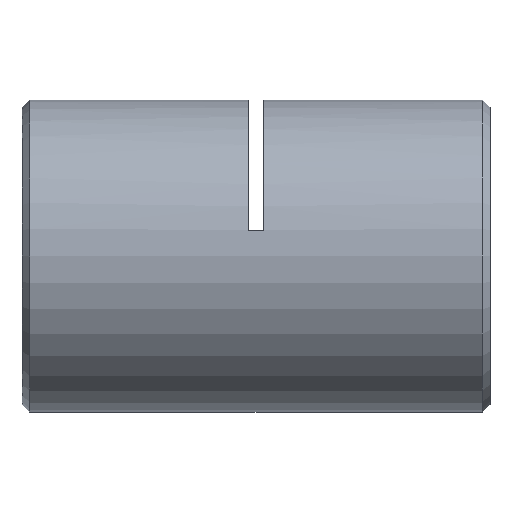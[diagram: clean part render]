
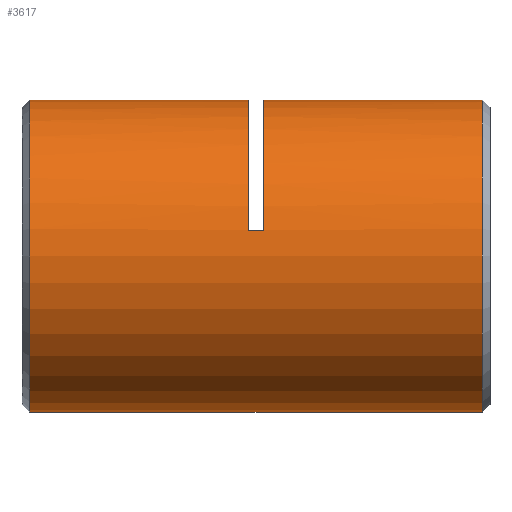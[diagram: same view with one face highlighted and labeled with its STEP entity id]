
A CAD part, left-side view. The second image highlights one B-rep face of the part: STEP entity #3617.
In plain terms, the highlighted cylindrical face has radius 10 mm (diameter 20 mm), a partial arc.
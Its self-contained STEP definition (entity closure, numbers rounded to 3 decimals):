
#63 = CIRCLE ( 'NONE', #838, 10. ) ;
#103 = ORIENTED_EDGE ( 'NONE', *, *, #2453, .F. ) ;
#176 = CARTESIAN_POINT ( 'NONE',  ( 0., 0., -10. ) ) ;
#597 = VERTEX_POINT ( 'NONE', #993 ) ;
#607 = ORIENTED_EDGE ( 'NONE', *, *, #4076, .T. ) ;
#634 = DIRECTION ( 'NONE',  ( 0., 1., 0. ) ) ;
#643 = DIRECTION ( 'NONE',  ( 0., 1., 0. ) ) ;
#674 = CYLINDRICAL_SURFACE ( 'NONE', #3073, 10. ) ;
#763 = DIRECTION ( 'NONE',  ( 0., 0., -1. ) ) ;
#789 = CARTESIAN_POINT ( 'NONE',  ( 0., 15.75, 0. ) ) ;
#803 = EDGE_CURVE ( 'NONE', #4102, #597, #4022, .T. ) ;
#813 = DIRECTION ( 'NONE',  ( 0., 0., 1. ) ) ;
#838 = AXIS2_PLACEMENT_3D ( 'NONE', #3916, #1218, #3447 ) ;
#872 = DIRECTION ( 'NONE',  ( 0., 1., 0. ) ) ;
#929 = ORIENTED_EDGE ( 'NONE', *, *, #1822, .T. ) ;
#993 = CARTESIAN_POINT ( 'NONE',  ( 0., 15.75, 10. ) ) ;
#1108 = EDGE_CURVE ( 'NONE', #1248, #3065, #63, .T. ) ;
#1218 = DIRECTION ( 'NONE',  ( 0., 1., 0. ) ) ;
#1220 = DIRECTION ( 'NONE',  ( 0., -1., 0. ) ) ;
#1248 = VERTEX_POINT ( 'NONE', #1810 ) ;
#1398 = CIRCLE ( 'NONE', #1823, 10. ) ;
#1606 = LINE ( 'NONE', #176, #5762 ) ;
#1699 = VERTEX_POINT ( 'NONE', #4235 ) ;
#1810 = CARTESIAN_POINT ( 'NONE',  ( 0., 0.75, -10. ) ) ;
#1822 = EDGE_CURVE ( 'NONE', #3065, #3367, #3582, .T. ) ;
#1823 = AXIS2_PLACEMENT_3D ( 'NONE', #3765, #643, #3743 ) ;
#1854 = VECTOR ( 'NONE', #4150, 1000. ) ;
#2074 = FACE_OUTER_BOUND ( 'NONE', #3543, .T. ) ;
#2227 = CIRCLE ( 'NONE', #2235, 10. ) ;
#2235 = AXIS2_PLACEMENT_3D ( 'NONE', #5723, #1220, #763 ) ;
#2293 = CARTESIAN_POINT ( 'NONE',  ( 0., 14.75, 10. ) ) ;
#2356 = CARTESIAN_POINT ( 'NONE',  ( -9.86, 15.75, 1.667 ) ) ;
#2397 = EDGE_CURVE ( 'NONE', #2489, #3367, #1398, .T. ) ;
#2453 = EDGE_CURVE ( 'NONE', #1248, #4590, #1606, .T. ) ;
#2489 = VERTEX_POINT ( 'NONE', #4233 ) ;
#2598 = DIRECTION ( 'NONE',  ( 0., 1., 0. ) ) ;
#2633 = LINE ( 'NONE', #4565, #1854 ) ;
#2649 = EDGE_CURVE ( 'NONE', #1699, #4590, #2227, .T. ) ;
#2953 = ORIENTED_EDGE ( 'NONE', *, *, #803, .T. ) ;
#3065 = VERTEX_POINT ( 'NONE', #3418 ) ;
#3073 = AXIS2_PLACEMENT_3D ( 'NONE', #4159, #634, #3714 ) ;
#3214 = DIRECTION ( 'NONE',  ( 0., 1., 0. ) ) ;
#3367 = VERTEX_POINT ( 'NONE', #2293 ) ;
#3418 = CARTESIAN_POINT ( 'NONE',  ( 0., 0.75, 10. ) ) ;
#3447 = DIRECTION ( 'NONE',  ( 0., 0., 1. ) ) ;
#3543 = EDGE_LOOP ( 'NONE', ( #103, #3759, #929, #3610, #607, #2953, #5705, #5510 ) ) ;
#3582 = LINE ( 'NONE', #4863, #5121 ) ;
#3589 = CARTESIAN_POINT ( 'NONE',  ( 0., 29.75, -10. ) ) ;
#3610 = ORIENTED_EDGE ( 'NONE', *, *, #2397, .F. ) ;
#3617 = ADVANCED_FACE ( 'NONE', ( #2074 ), #674, .T. ) ;
#3714 = DIRECTION ( 'NONE',  ( 0., 0., 1. ) ) ;
#3743 = DIRECTION ( 'NONE',  ( 0., 0., 1. ) ) ;
#3759 = ORIENTED_EDGE ( 'NONE', *, *, #1108, .T. ) ;
#3765 = CARTESIAN_POINT ( 'NONE',  ( 0., 14.75, 0. ) ) ;
#3916 = CARTESIAN_POINT ( 'NONE',  ( 0., 0.75, 0. ) ) ;
#4022 = CIRCLE ( 'NONE', #4382, 10. ) ;
#4076 = EDGE_CURVE ( 'NONE', #2489, #4102, #2633, .T. ) ;
#4102 = VERTEX_POINT ( 'NONE', #2356 ) ;
#4150 = DIRECTION ( 'NONE',  ( 0., 1., 0. ) ) ;
#4159 = CARTESIAN_POINT ( 'NONE',  ( 0., 0., 0. ) ) ;
#4233 = CARTESIAN_POINT ( 'NONE',  ( -9.86, 14.75, 1.667 ) ) ;
#4235 = CARTESIAN_POINT ( 'NONE',  ( 0., 29.75, 10. ) ) ;
#4382 = AXIS2_PLACEMENT_3D ( 'NONE', #789, #2598, #813 ) ;
#4439 = VECTOR ( 'NONE', #3214, 1000. ) ;
#4565 = CARTESIAN_POINT ( 'NONE',  ( -9.86, 15.25, 1.667 ) ) ;
#4590 = VERTEX_POINT ( 'NONE', #3589 ) ;
#4863 = CARTESIAN_POINT ( 'NONE',  ( 0., 0., 10. ) ) ;
#4923 = LINE ( 'NONE', #4963, #4439 ) ;
#4963 = CARTESIAN_POINT ( 'NONE',  ( 0., 0., 10. ) ) ;
#5081 = DIRECTION ( 'NONE',  ( 0., 1., 0. ) ) ;
#5121 = VECTOR ( 'NONE', #872, 1000. ) ;
#5510 = ORIENTED_EDGE ( 'NONE', *, *, #2649, .T. ) ;
#5705 = ORIENTED_EDGE ( 'NONE', *, *, #5814, .T. ) ;
#5723 = CARTESIAN_POINT ( 'NONE',  ( 0., 29.75, 0. ) ) ;
#5762 = VECTOR ( 'NONE', #5081, 1000. ) ;
#5814 = EDGE_CURVE ( 'NONE', #597, #1699, #4923, .T. ) ;
